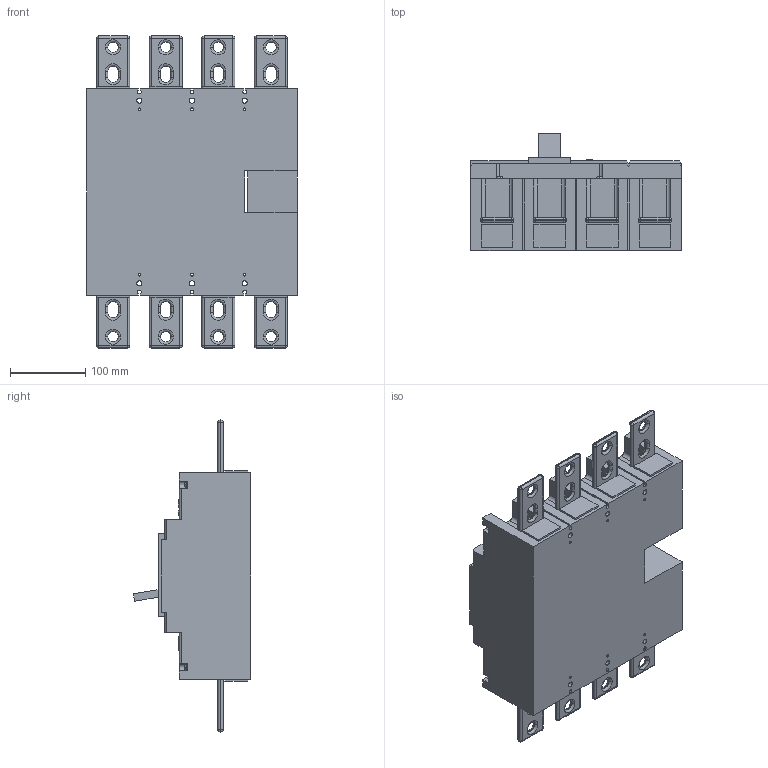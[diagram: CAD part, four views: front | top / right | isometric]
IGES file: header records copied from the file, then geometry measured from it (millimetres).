
Start section:  PTC IGES file: 28-metasol-mccb-800af-abl604c.igs
Global section: file name: 28-metasol-mccb-800af-abl604c.igs; native system: Pro/ENGINEER by Parametric Technology Corporation; preprocessor: 2010280; author: mgkimb; organization: Unknown; date: 20131029.143426; units: millimetre
Bounding box: 280 x 155.8 x 415 mm (x, y, z)
Surface area: 415644.1 mm2 (no closed solid volume)
Topology: 0 solids, 0 shells, 1496 faces, 7982 edges, 7982 vertices
Faces by surface type: bspline 1109, revolution 387
